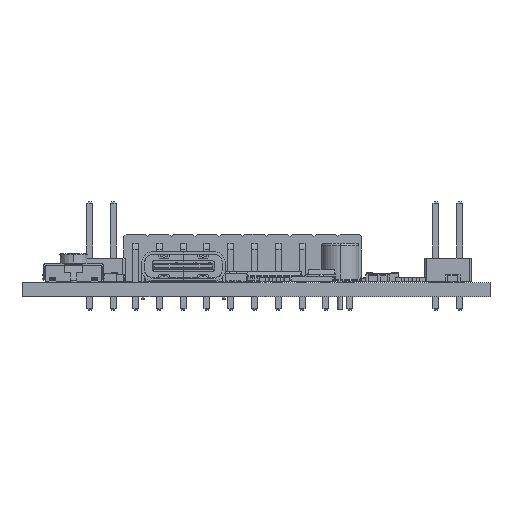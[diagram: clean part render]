
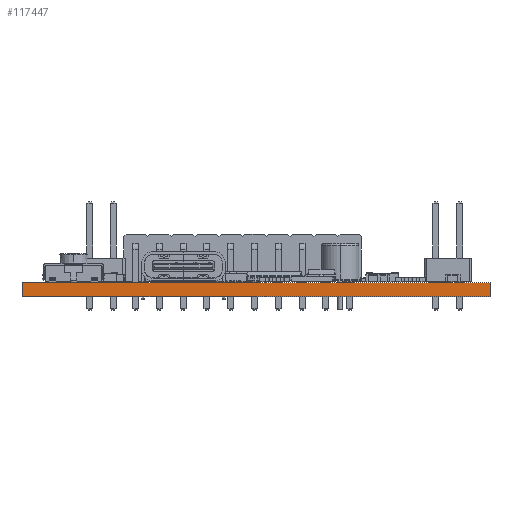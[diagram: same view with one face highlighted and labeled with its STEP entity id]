
A CAD part, left-side view. The second image highlights one B-rep face of the part: STEP entity #117447.
In plain terms, the highlighted planar face has unit normal (-1, 0, 0).
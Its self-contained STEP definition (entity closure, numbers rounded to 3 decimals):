
#117391 = VERTEX_POINT('',#117392);
#117392 = CARTESIAN_POINT('',(20.,-70.,1.51));
#117398 = EDGE_CURVE('',#117399,#117391,#117401,.T.);
#117399 = VERTEX_POINT('',#117400);
#117400 = CARTESIAN_POINT('',(20.,-70.,0.));
#117401 = LINE('',#117402,#117403);
#117402 = CARTESIAN_POINT('',(20.,-70.,0.));
#117403 = VECTOR('',#117404,1.);
#117404 = DIRECTION('',(0.,0.,1.));
#117447 = ADVANCED_FACE('',(#117448),#117473,.T.);
#117448 = FACE_BOUND('',#117449,.T.);
#117449 = EDGE_LOOP('',(#117450,#117451,#117459,#117467));
#117450 = ORIENTED_EDGE('',*,*,#117398,.T.);
#117451 = ORIENTED_EDGE('',*,*,#117452,.T.);
#117452 = EDGE_CURVE('',#117391,#117453,#117455,.T.);
#117453 = VERTEX_POINT('',#117454);
#117454 = CARTESIAN_POINT('',(20.,-20.,1.51));
#117455 = LINE('',#117456,#117457);
#117456 = CARTESIAN_POINT('',(20.,-70.,1.51));
#117457 = VECTOR('',#117458,1.);
#117458 = DIRECTION('',(0.,1.,0.));
#117459 = ORIENTED_EDGE('',*,*,#117460,.F.);
#117460 = EDGE_CURVE('',#117461,#117453,#117463,.T.);
#117461 = VERTEX_POINT('',#117462);
#117462 = CARTESIAN_POINT('',(20.,-20.,0.));
#117463 = LINE('',#117464,#117465);
#117464 = CARTESIAN_POINT('',(20.,-20.,0.));
#117465 = VECTOR('',#117466,1.);
#117466 = DIRECTION('',(0.,0.,1.));
#117467 = ORIENTED_EDGE('',*,*,#117468,.F.);
#117468 = EDGE_CURVE('',#117399,#117461,#117469,.T.);
#117469 = LINE('',#117470,#117471);
#117470 = CARTESIAN_POINT('',(20.,-70.,0.));
#117471 = VECTOR('',#117472,1.);
#117472 = DIRECTION('',(0.,1.,0.));
#117473 = PLANE('',#117474);
#117474 = AXIS2_PLACEMENT_3D('',#117475,#117476,#117477);
#117475 = CARTESIAN_POINT('',(20.,-70.,0.));
#117476 = DIRECTION('',(-1.,0.,0.));
#117477 = DIRECTION('',(0.,1.,0.));
